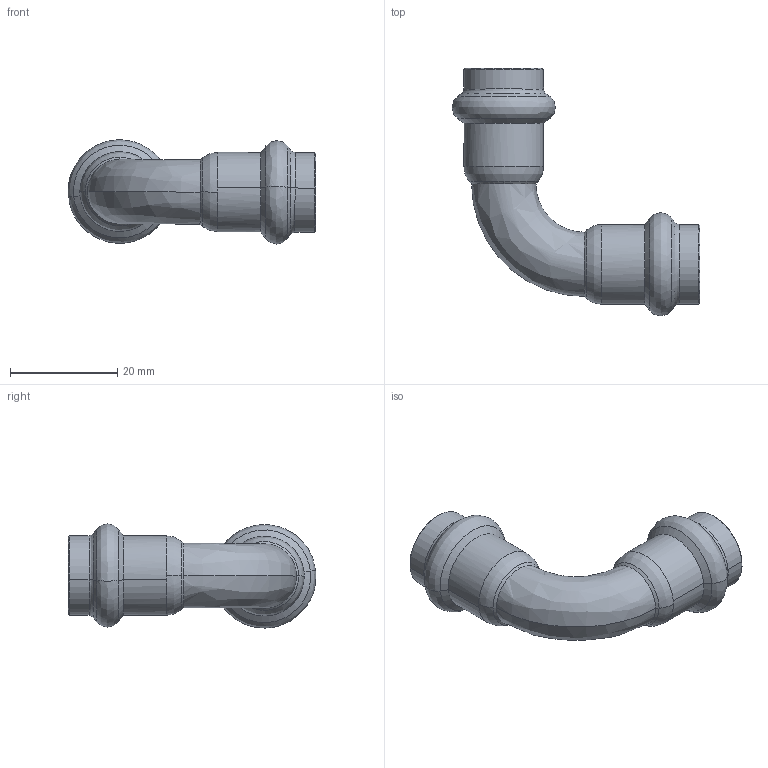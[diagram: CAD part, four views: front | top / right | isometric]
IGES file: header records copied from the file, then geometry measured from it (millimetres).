
Start section: Elysium IGES Interface
Global section: file name: C:\3d modellen sudo\C-Pr VP\SP8002V\8002VW12.igs; native system: CoCreate Modeling 17.00A  17-Jun-2010; preprocessor: CoCreate IGES_3D V2.2; author: Unknown; organization: Unknown; date: 20130129.135013; units: millimetre
Bounding box: 46.24 x 46.14 x 19.42 mm (x, y, z)
Volume: 4454.5 mm3; surface area: 5825.8 mm2
Topology: 1 solids, 1 shells, 82 faces, 192 edges, 116 vertices
Faces by surface type: bspline 82
